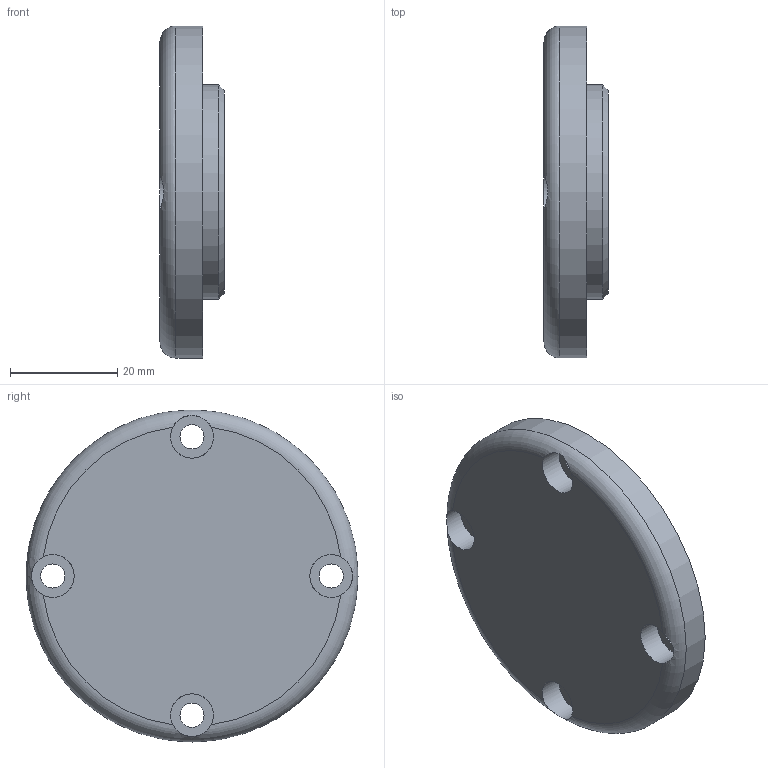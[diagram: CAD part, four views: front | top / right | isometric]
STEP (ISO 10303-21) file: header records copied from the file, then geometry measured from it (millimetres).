
FILE_DESCRIPTION(/* description */ (''),/* implementation_level */ '2;1');
FILE_NAME(/* name */ '',/* time_stamp */ '2024-09-02T11:27:29+09:00',/* author */ ('jhkim'),/* organization */ (''),/* preprocessor_version */ 'ST-DEVELOPER v20',/* originating_system */ 'Autodesk Inventor 2025',/* authorisation */ '');
FILE_SCHEMA (('AUTOMOTIVE_DESIGN { 1 0 10303 214 3 1 1 }'));
Length unit declared in the file: millimetre
Products named in the file (1): 뒷커버
Bounding box: 12 x 62 x 62 mm (x, y, z)
Volume: 25117 mm3; surface area: 8450.5 mm2
Topology: 1 solids, 1 shells, 21 faces, 50 edges, 33 vertices
Faces by surface type: cylinder 10, plane 8, torus 2, cone 1
Full cylindrical faces by diameter (mm): 4.5 x4, 8 x4, 40 x1, 62 x1
Entity records: 742 total; most frequent: CARTESIAN_POINT 168, DIRECTION 123, ORIENTED_EDGE 100, AXIS2_PLACEMENT_3D 56, EDGE_CURVE 50, CIRCLE 34, VERTEX_POINT 33, EDGE_LOOP 31
